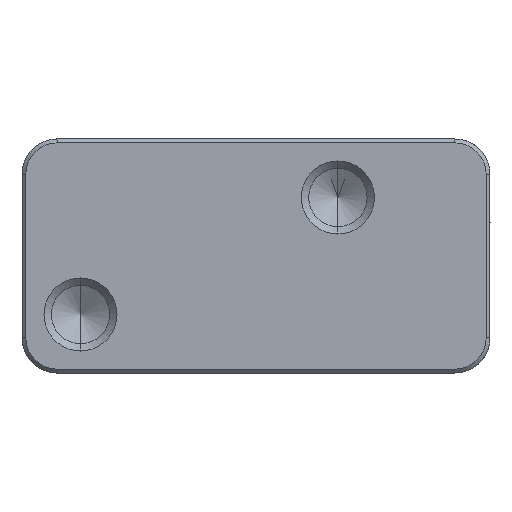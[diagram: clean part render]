
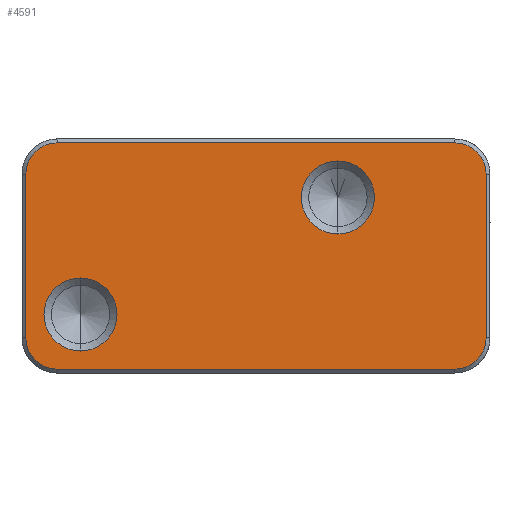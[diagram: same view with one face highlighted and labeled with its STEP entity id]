
A CAD part, front view. The second image highlights one B-rep face of the part: STEP entity #4591.
In plain terms, the highlighted planar face has unit normal (0, -1, 0).
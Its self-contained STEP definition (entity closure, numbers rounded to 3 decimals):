
#362 = ORIENTED_EDGE ( 'NONE', *, *, #2797, .T. ) ;
#391 = CARTESIAN_POINT ( 'NONE',  ( -10., 0., 4.831 ) ) ;
#550 = CARTESIAN_POINT ( 'NONE',  ( -8.5, 0., 3.498 ) ) ;
#606 = VECTOR ( 'NONE', #13109, 1000. ) ;
#632 = VERTEX_POINT ( 'NONE', #9403 ) ;
#861 = AXIS2_PLACEMENT_3D ( 'NONE', #5406, #7614, #14847 ) ;
#1066 = CARTESIAN_POINT ( 'NONE',  ( -7.5, 0., -0.94 ) ) ;
#1122 = CARTESIAN_POINT ( 'NONE',  ( -8.5, 0., -4.836 ) ) ;
#1205 = EDGE_CURVE ( 'NONE', #14608, #7865, #7415, .T. ) ;
#1505 = FACE_BOUND ( 'NONE', #2160, .T. ) ;
#1577 = DIRECTION ( 'NONE',  ( 0., 0., 1. ) ) ;
#1619 = LINE ( 'NONE', #391, #606 ) ;
#1844 = CARTESIAN_POINT ( 'NONE',  ( 3.5, 0., 2.497 ) ) ;
#1884 = DIRECTION ( 'NONE',  ( 0., 0., 1. ) ) ;
#1953 = CIRCLE ( 'NONE', #2669, 1.333 ) ;
#1976 = DIRECTION ( 'NONE',  ( 0., 0., -1. ) ) ;
#2120 = AXIS2_PLACEMENT_3D ( 'NONE', #10032, #12312, #13465 ) ;
#2160 = EDGE_LOOP ( 'NONE', ( #9492, #14504 ) ) ;
#2224 = AXIS2_PLACEMENT_3D ( 'NONE', #1844, #2911, #13491 ) ;
#2669 = AXIS2_PLACEMENT_3D ( 'NONE', #10169, #2945, #1884 ) ;
#2797 = EDGE_CURVE ( 'NONE', #8279, #6717, #5744, .T. ) ;
#2799 = CIRCLE ( 'NONE', #8141, 1.333 ) ;
#2889 = EDGE_LOOP ( 'NONE', ( #11744, #12373 ) ) ;
#2911 = DIRECTION ( 'NONE',  ( 0., 1., 0. ) ) ;
#2945 = DIRECTION ( 'NONE',  ( 0., 1., 0. ) ) ;
#3017 = DIRECTION ( 'NONE',  ( 0., -1., 0. ) ) ;
#3293 = CARTESIAN_POINT ( 'NONE',  ( -10., 0., -4.836 ) ) ;
#3669 = VECTOR ( 'NONE', #12339, 1000. ) ;
#3723 = EDGE_LOOP ( 'NONE', ( #8319, #6930, #11856, #11727, #8480, #362, #13076, #7243 ) ) ;
#3858 = DIRECTION ( 'NONE',  ( 0., 1., 0. ) ) ;
#3874 = VERTEX_POINT ( 'NONE', #4899 ) ;
#3969 = CARTESIAN_POINT ( 'NONE',  ( -8.5, 0., 4.831 ) ) ;
#4007 = VECTOR ( 'NONE', #7126, 1000. ) ;
#4498 = VERTEX_POINT ( 'NONE', #5231 ) ;
#4591 = ADVANCED_FACE ( 'NONE', ( #8488, #14226, #1505 ), #8808, .T. ) ;
#4899 = CARTESIAN_POINT ( 'NONE',  ( -9.833, 0., 3.498 ) ) ;
#5036 = VERTEX_POINT ( 'NONE', #3969 ) ;
#5193 = DIRECTION ( 'NONE',  ( 0., -1., 0. ) ) ;
#5211 = DIRECTION ( 'NONE',  ( 0., 0., 1. ) ) ;
#5231 = CARTESIAN_POINT ( 'NONE',  ( 3.5, 0., 0.935 ) ) ;
#5342 = CIRCLE ( 'NONE', #7035, 1.562 ) ;
#5394 = CARTESIAN_POINT ( 'NONE',  ( 3.5, 0., 2.497 ) ) ;
#5406 = CARTESIAN_POINT ( 'NONE',  ( -7.5, 0., -2.503 ) ) ;
#5744 = CIRCLE ( 'NONE', #13278, 1.333 ) ;
#5761 = VERTEX_POINT ( 'NONE', #13363 ) ;
#6717 = VERTEX_POINT ( 'NONE', #12077 ) ;
#6748 = EDGE_CURVE ( 'NONE', #12766, #9765, #9589, .T. ) ;
#6930 = ORIENTED_EDGE ( 'NONE', *, *, #6748, .F. ) ;
#6954 = EDGE_CURVE ( 'NONE', #5036, #3874, #2799, .T. ) ;
#6969 = EDGE_CURVE ( 'NONE', #6717, #5036, #1619, .T. ) ;
#7035 = AXIS2_PLACEMENT_3D ( 'NONE', #8968, #13624, #1976 ) ;
#7126 = DIRECTION ( 'NONE',  ( 0., 0., 1. ) ) ;
#7243 = ORIENTED_EDGE ( 'NONE', *, *, #6954, .T. ) ;
#7415 = CIRCLE ( 'NONE', #861, 1.562 ) ;
#7509 = EDGE_CURVE ( 'NONE', #12429, #8279, #12848, .T. ) ;
#7614 = DIRECTION ( 'NONE',  ( 0., 1., 0. ) ) ;
#7865 = VERTEX_POINT ( 'NONE', #9157 ) ;
#8141 = AXIS2_PLACEMENT_3D ( 'NONE', #550, #5193, #8606 ) ;
#8155 = EDGE_CURVE ( 'NONE', #632, #12766, #13727, .T. ) ;
#8279 = VERTEX_POINT ( 'NONE', #10795 ) ;
#8311 = AXIS2_PLACEMENT_3D ( 'NONE', #5394, #10034, #8884 ) ;
#8319 = ORIENTED_EDGE ( 'NONE', *, *, #10738, .T. ) ;
#8480 = ORIENTED_EDGE ( 'NONE', *, *, #7509, .T. ) ;
#8488 = FACE_OUTER_BOUND ( 'NONE', #3723, .T. ) ;
#8606 = DIRECTION ( 'NONE',  ( 0., 0., 1. ) ) ;
#8677 = CARTESIAN_POINT ( 'NONE',  ( -9.833, 0., -5.003 ) ) ;
#8808 = PLANE ( 'NONE',  #2120 ) ;
#8884 = DIRECTION ( 'NONE',  ( 0., 0., -1. ) ) ;
#8968 = CARTESIAN_POINT ( 'NONE',  ( -7.5, 0., -2.503 ) ) ;
#9157 = CARTESIAN_POINT ( 'NONE',  ( -7.5, 0., -4.065 ) ) ;
#9275 = EDGE_CURVE ( 'NONE', #5761, #4498, #12457, .T. ) ;
#9288 = DIRECTION ( 'NONE',  ( -1., 0., 0. ) ) ;
#9403 = CARTESIAN_POINT ( 'NONE',  ( 8.5, 0., -4.836 ) ) ;
#9492 = ORIENTED_EDGE ( 'NONE', *, *, #10677, .T. ) ;
#9589 = CIRCLE ( 'NONE', #12521, 1.333 ) ;
#9765 = VERTEX_POINT ( 'NONE', #12773 ) ;
#10032 = CARTESIAN_POINT ( 'NONE',  ( -10., 0., -5.003 ) ) ;
#10034 = DIRECTION ( 'NONE',  ( 0., 1., 0. ) ) ;
#10169 = CARTESIAN_POINT ( 'NONE',  ( 8.5, 0., -3.503 ) ) ;
#10677 = EDGE_CURVE ( 'NONE', #4498, #5761, #12908, .T. ) ;
#10738 = EDGE_CURVE ( 'NONE', #3874, #9765, #12265, .T. ) ;
#10795 = CARTESIAN_POINT ( 'NONE',  ( 9.833, 0., 3.498 ) ) ;
#11031 = CARTESIAN_POINT ( 'NONE',  ( 9.833, 0., -3.503 ) ) ;
#11238 = VECTOR ( 'NONE', #9288, 1000. ) ;
#11727 = ORIENTED_EDGE ( 'NONE', *, *, #12909, .F. ) ;
#11744 = ORIENTED_EDGE ( 'NONE', *, *, #12689, .T. ) ;
#11856 = ORIENTED_EDGE ( 'NONE', *, *, #8155, .F. ) ;
#12077 = CARTESIAN_POINT ( 'NONE',  ( 8.5, 0., 4.831 ) ) ;
#12265 = LINE ( 'NONE', #8677, #3669 ) ;
#12312 = DIRECTION ( 'NONE',  ( 0., -1., 0. ) ) ;
#12339 = DIRECTION ( 'NONE',  ( 0., 0., -1. ) ) ;
#12373 = ORIENTED_EDGE ( 'NONE', *, *, #1205, .T. ) ;
#12429 = VERTEX_POINT ( 'NONE', #11031 ) ;
#12457 = CIRCLE ( 'NONE', #8311, 1.562 ) ;
#12521 = AXIS2_PLACEMENT_3D ( 'NONE', #14300, #3858, #1577 ) ;
#12689 = EDGE_CURVE ( 'NONE', #7865, #14608, #5342, .T. ) ;
#12766 = VERTEX_POINT ( 'NONE', #1122 ) ;
#12773 = CARTESIAN_POINT ( 'NONE',  ( -9.833, 0., -3.503 ) ) ;
#12848 = LINE ( 'NONE', #14997, #4007 ) ;
#12908 = CIRCLE ( 'NONE', #2224, 1.562 ) ;
#12909 = EDGE_CURVE ( 'NONE', #12429, #632, #1953, .T. ) ;
#13076 = ORIENTED_EDGE ( 'NONE', *, *, #6969, .T. ) ;
#13109 = DIRECTION ( 'NONE',  ( -1., 0., 0. ) ) ;
#13278 = AXIS2_PLACEMENT_3D ( 'NONE', #14673, #3017, #5211 ) ;
#13363 = CARTESIAN_POINT ( 'NONE',  ( 3.5, 0., 4.06 ) ) ;
#13465 = DIRECTION ( 'NONE',  ( 0., 0., -1. ) ) ;
#13491 = DIRECTION ( 'NONE',  ( 0., 0., -1. ) ) ;
#13624 = DIRECTION ( 'NONE',  ( 0., 1., 0. ) ) ;
#13727 = LINE ( 'NONE', #3293, #11238 ) ;
#14226 = FACE_BOUND ( 'NONE', #2889, .T. ) ;
#14300 = CARTESIAN_POINT ( 'NONE',  ( -8.5, 0., -3.503 ) ) ;
#14504 = ORIENTED_EDGE ( 'NONE', *, *, #9275, .T. ) ;
#14608 = VERTEX_POINT ( 'NONE', #1066 ) ;
#14673 = CARTESIAN_POINT ( 'NONE',  ( 8.5, 0., 3.498 ) ) ;
#14847 = DIRECTION ( 'NONE',  ( 0., 0., -1. ) ) ;
#14997 = CARTESIAN_POINT ( 'NONE',  ( 9.833, 0., -5.003 ) ) ;
